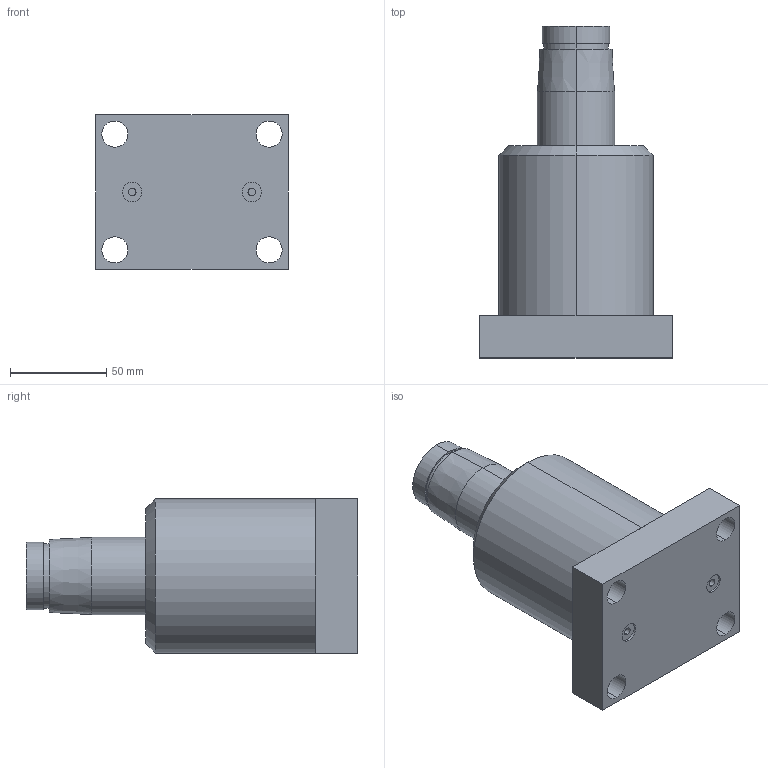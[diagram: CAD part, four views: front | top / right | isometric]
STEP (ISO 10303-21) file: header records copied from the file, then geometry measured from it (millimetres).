
FILE_DESCRIPTION (( 'STEP AP214' ), '1' );
FILE_NAME ('#HPS-50DC.STEP', '2021-10-18T08:29:18', ( '' ), ( '' ), 'SwSTEP 2.0', 'SolidWorks 2016', '' );
FILE_SCHEMA (( 'AUTOMOTIVE_DESIGN' ));
Length unit declared in the file: millimetre
Products named in the file (1): #HPS-50DC
Bounding box: 100 x 172 x 80 mm (x, y, z)
Volume: 675098.5 mm3; surface area: 55567.7 mm2
Topology: 1 solids, 1 shells, 43 faces, 94 edges, 60 vertices
Faces by surface type: cylinder 24, plane 15, cone 4
Entity records: 1268 total; most frequent: DIRECTION 234, CARTESIAN_POINT 198, ORIENTED_EDGE 188, AXIS2_PLACEMENT_3D 96, EDGE_CURVE 94, VERTEX_POINT 60, EDGE_LOOP 58, CIRCLE 52
